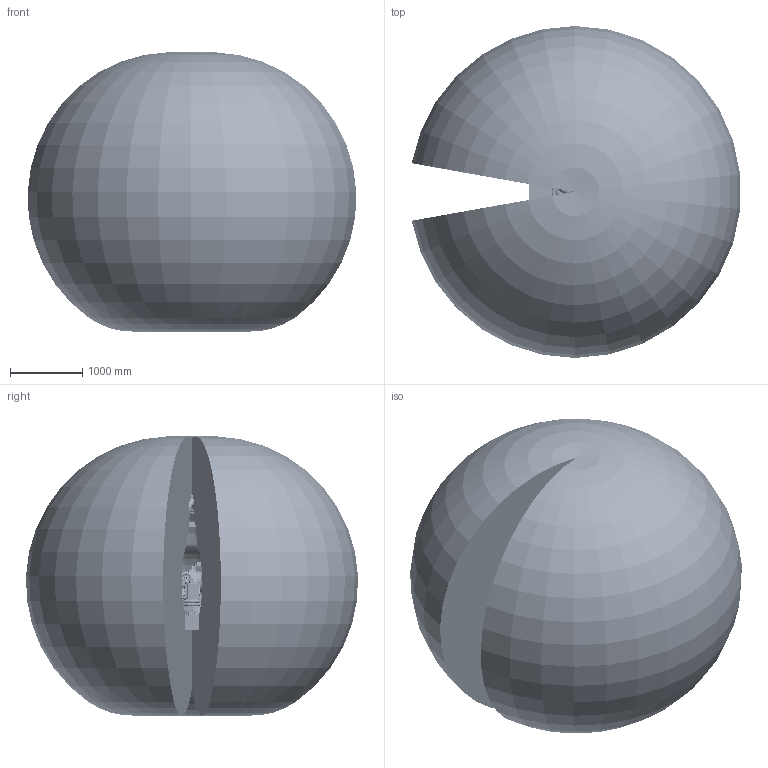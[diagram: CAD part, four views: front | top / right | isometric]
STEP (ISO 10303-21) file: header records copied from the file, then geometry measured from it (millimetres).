
FILE_DESCRIPTION (( 'STEP AP214' ), '1' );
FILE_NAME ('IRB5710-MH3_110kg-230_OC_01_ASM.STEP', '2023-06-26T13:15:13', ( '' ), ( '' ), 'SwSTEP 2.0', 'SolidWorks 2022', '' );
FILE_SCHEMA (( 'AUTOMOTIVE_DESIGN' ));
Length unit declared in the file: millimetre
Products named in the file (17): IRB5710-MH3_110kg-230_OmniCore_rev00_LINK02m_CABLE; IRB5710-MH3_110kg-230_OmniCore_rev00_LINK02_CABLE; IRB5710-MH3_110kg-230_OmniCore_rev00_Working-space; IRB5710-MH3_110kg-230_OmniCore_rev00_LINK06_CAD; IRB5710-MH3_110kg-230_OmniCore_rev00_LINK05_CAD; IRB5710-MH3_110kg-230_OC_01_ASM; IRB5710-MH3_110kg-230_OmniCore_rev00_LINK04_CABLE; IRB5710-MH3_110kg-230_OmniCore_rev00_LINK01m_CABLE; IRB5710-MH3_110kg-230_OmniCore_rev00_LINK02_CAD; IRB5710-MH3_110kg-230_OmniCore_rev00_LINK01_CAD; IRB5710-MH3_110kg-230_OmniCore_rev00_LINK03m_CABLE; IRB5710-MH3_110kg-230_OC_01_LINK03a_CABLE; IRB5710-MH3_110kg-230_OmniCore_rev00_LINK01_CABLE; IRB5710-MH3_110kg-230_OmniCore_rev00_LINK03_CAD; IRB5710-MH3_110kg-230_OmniCore_rev00_LINK04_CAD; IRB5710-MH3_110kg-230_OC_01_BASE_CAD; IRB5710-MH3_110kg-230_OC_01_LINK03b_CABLE
Assembly tree (16 placements, depth 2):
  IRB5710-MH3_110kg-230_OC_01_ASM
    IRB5710-MH3_110kg-230_OC_01_BASE_CAD
    IRB5710-MH3_110kg-230_OmniCore_rev00_LINK01_CAD
    IRB5710-MH3_110kg-230_OmniCore_rev00_LINK02_CAD
    IRB5710-MH3_110kg-230_OmniCore_rev00_LINK03_CAD
    IRB5710-MH3_110kg-230_OmniCore_rev00_LINK04_CAD
    IRB5710-MH3_110kg-230_OmniCore_rev00_LINK05_CAD
    IRB5710-MH3_110kg-230_OmniCore_rev00_LINK06_CAD
    IRB5710-MH3_110kg-230_OmniCore_rev00_LINK01m_CABLE
    IRB5710-MH3_110kg-230_OmniCore_rev00_LINK02m_CABLE
    IRB5710-MH3_110kg-230_OmniCore_rev00_LINK03m_CABLE
    IRB5710-MH3_110kg-230_OmniCore_rev00_Working-space
    IRB5710-MH3_110kg-230_OC_01_LINK03a_CABLE
    IRB5710-MH3_110kg-230_OC_01_LINK03b_CABLE
    IRB5710-MH3_110kg-230_OmniCore_rev00_LINK04_CABLE
    IRB5710-MH3_110kg-230_OmniCore_rev00_LINK02_CABLE
    IRB5710-MH3_110kg-230_OmniCore_rev00_LINK01_CABLE
Bounding box: 4548.84 x 4596.35 x 3866.47 mm (x, y, z)
Volume: 42284725748.5 mm3; surface area: 89910650.2 mm2
Topology: 22 solids, 72 shells, 7601 faces, 19256 edges, 12383 vertices
Faces by surface type: plane 3681, cylinder 2201, cone 859, bspline 642, torus 192, sphere 26
Entity records: 333592 total; most frequent: CARTESIAN_POINT 146145, ORIENTED_EDGE 38220, DIRECTION 35125, EDGE_CURVE 19110, AXIS2_PLACEMENT_3D 12689, VERTEX_POINT 12382, LINE 9747, VECTOR 9747
